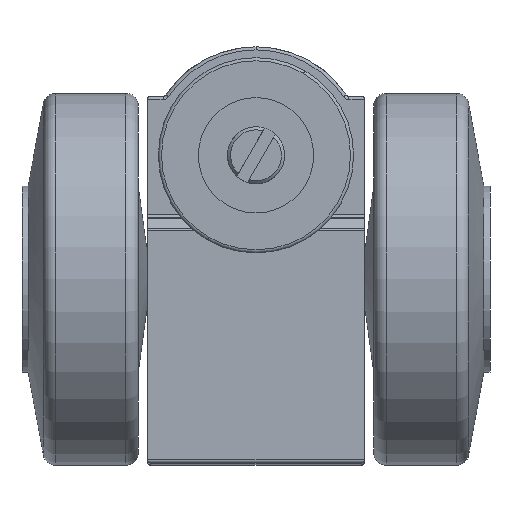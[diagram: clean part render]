
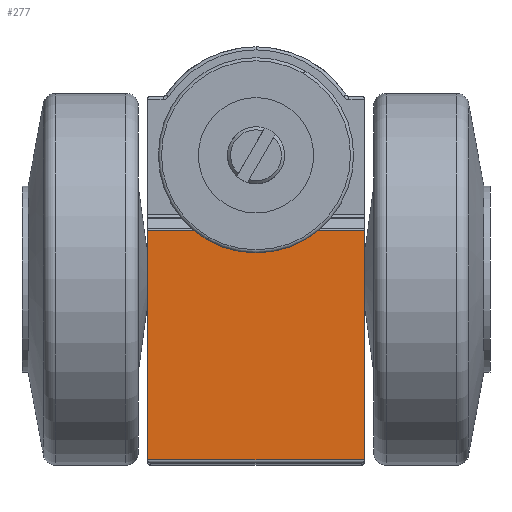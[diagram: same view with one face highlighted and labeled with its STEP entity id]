
A CAD part, front view. The second image highlights one B-rep face of the part: STEP entity #277.
In plain terms, the highlighted planar face has unit normal (0, -1, 0).
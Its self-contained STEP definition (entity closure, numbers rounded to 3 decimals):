
#239 = CARTESIAN_POINT ( 'NONE',  ( 17.498, -5., -29.128 ) ) ;
#277 = ADVANCED_FACE ( 'NONE', ( #4154 ), #498, .F. ) ;
#498 = PLANE ( 'NONE',  #5177 ) ;
#744 = CARTESIAN_POINT ( 'NONE',  ( 17.5, -5., -27.55 ) ) ;
#769 = DIRECTION ( 'NONE',  ( 0., 1., 0. ) ) ;
#894 = DIRECTION ( 'NONE',  ( 0., 0., 1. ) ) ;
#1019 = EDGE_CURVE ( 'NONE', #4383, #3859, #4649, .T. ) ;
#1333 = B_SPLINE_CURVE_WITH_KNOTS ( 'NONE', 3,
 ( #4468, #1937, #6240, #7434 ),
 .UNSPECIFIED., .F., .F.,
 ( 4, 4 ),
 ( 0., 0. ),
 .UNSPECIFIED. ) ;
#1393 = DIRECTION ( 'NONE',  ( 0., 0., -1. ) ) ;
#1577 = CARTESIAN_POINT ( 'NONE',  ( 17.5, -5., -29.073 ) ) ;
#1643 = LINE ( 'NONE', #5960, #3121 ) ;
#1731 = VERTEX_POINT ( 'NONE', #4705 ) ;
#1783 = VERTEX_POINT ( 'NONE', #7042 ) ;
#1937 = CARTESIAN_POINT ( 'NONE',  ( -17.5, -5., -29.1 ) ) ;
#1944 = VECTOR ( 'NONE', #6301, 1000. ) ;
#2190 = VERTEX_POINT ( 'NONE', #4014 ) ;
#2215 = ORIENTED_EDGE ( 'NONE', *, *, #2554, .T. ) ;
#2389 = CARTESIAN_POINT ( 'NONE',  ( 17.5, -5., -29.155 ) ) ;
#2554 = EDGE_CURVE ( 'NONE', #1783, #2190, #1333, .T. ) ;
#2591 = EDGE_CURVE ( 'NONE', #2190, #4817, #4496, .T. ) ;
#2710 = DIRECTION ( 'NONE',  ( -1., 0., 0. ) ) ;
#2838 = VECTOR ( 'NONE', #4232, 1000. ) ;
#2977 = VECTOR ( 'NONE', #2710, 1000. ) ;
#3121 = VECTOR ( 'NONE', #1393, 1000. ) ;
#3770 = EDGE_LOOP ( 'NONE', ( #4254, #4081, #7176, #2215, #5336, #5150 ) ) ;
#3859 = VERTEX_POINT ( 'NONE', #6626 ) ;
#4014 = CARTESIAN_POINT ( 'NONE',  ( -17.493, -5., -29.155 ) ) ;
#4081 = ORIENTED_EDGE ( 'NONE', *, *, #1019, .T. ) ;
#4133 = EDGE_CURVE ( 'NONE', #3859, #1783, #5265, .T. ) ;
#4154 = FACE_OUTER_BOUND ( 'NONE', #3770, .T. ) ;
#4232 = DIRECTION ( 'NONE',  ( 1., 0., 0. ) ) ;
#4254 = ORIENTED_EDGE ( 'NONE', *, *, #7607, .F. ) ;
#4383 = VERTEX_POINT ( 'NONE', #6688 ) ;
#4406 = CARTESIAN_POINT ( 'NONE',  ( -17.5, -5., -27.55 ) ) ;
#4468 = CARTESIAN_POINT ( 'NONE',  ( -17.5, -5., -29.073 ) ) ;
#4496 = LINE ( 'NONE', #2389, #2838 ) ;
#4649 = LINE ( 'NONE', #7204, #2977 ) ;
#4701 = CARTESIAN_POINT ( 'NONE',  ( 17.493, -5., -29.155 ) ) ;
#4705 = CARTESIAN_POINT ( 'NONE',  ( 17.5, -5., -29.073 ) ) ;
#4817 = VERTEX_POINT ( 'NONE', #5869 ) ;
#5150 = ORIENTED_EDGE ( 'NONE', *, *, #7418, .T. ) ;
#5177 = AXIS2_PLACEMENT_3D ( 'NONE', #744, #769, #894 ) ;
#5265 = LINE ( 'NONE', #4406, #1944 ) ;
#5314 = CARTESIAN_POINT ( 'NONE',  ( 17.5, -5., -29.1 ) ) ;
#5336 = ORIENTED_EDGE ( 'NONE', *, *, #2591, .T. ) ;
#5498 = B_SPLINE_CURVE_WITH_KNOTS ( 'NONE', 3,
 ( #4701, #239, #5314, #1577 ),
 .UNSPECIFIED., .F., .F.,
 ( 4, 4 ),
 ( 0., 0. ),
 .UNSPECIFIED. ) ;
#5869 = CARTESIAN_POINT ( 'NONE',  ( 17.493, -5., -29.155 ) ) ;
#5960 = CARTESIAN_POINT ( 'NONE',  ( 17.5, -5., -27.55 ) ) ;
#6240 = CARTESIAN_POINT ( 'NONE',  ( -17.498, -5., -29.128 ) ) ;
#6301 = DIRECTION ( 'NONE',  ( 0., 0., -1. ) ) ;
#6626 = CARTESIAN_POINT ( 'NONE',  ( -17.5, -5., 7.793 ) ) ;
#6688 = CARTESIAN_POINT ( 'NONE',  ( 17.5, -5., 7.793 ) ) ;
#7042 = CARTESIAN_POINT ( 'NONE',  ( -17.5, -5., -29.073 ) ) ;
#7176 = ORIENTED_EDGE ( 'NONE', *, *, #4133, .T. ) ;
#7204 = CARTESIAN_POINT ( 'NONE',  ( 17.5, -5., 7.793 ) ) ;
#7418 = EDGE_CURVE ( 'NONE', #4817, #1731, #5498, .T. ) ;
#7434 = CARTESIAN_POINT ( 'NONE',  ( -17.493, -5., -29.155 ) ) ;
#7607 = EDGE_CURVE ( 'NONE', #4383, #1731, #1643, .T. ) ;
